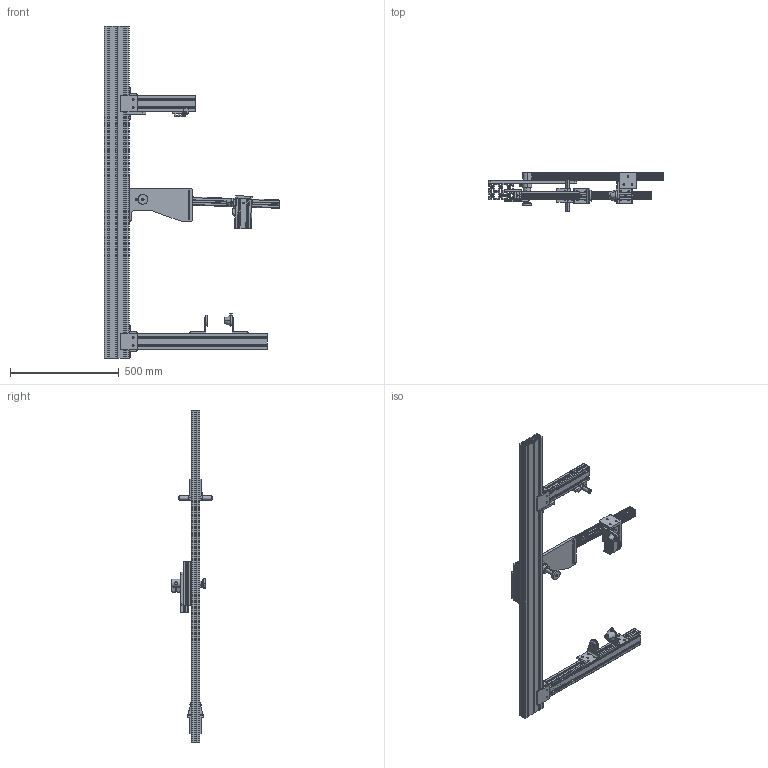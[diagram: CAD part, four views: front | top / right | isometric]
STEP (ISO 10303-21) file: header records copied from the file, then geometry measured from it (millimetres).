
FILE_DESCRIPTION (( 'STEP AP214' ), '1' );
FILE_NAME ('FRAME_JIG.STEP', '2022-06-14T12:47:03', ( '' ), ( '' ), 'SwSTEP 2.0', 'SolidWorks 2021', '' );
FILE_SCHEMA (( 'AUTOMOTIVE_DESIGN' ));
Length unit declared in the file: inch
Products named in the file (30): 1545_S_10; 1515_ULS_30_CL; 5779K108_Push-to-Connect Tube Fitting for Air_5779K108; bb_post; st_angle_plate; st_cone; FRAME_JIG; 4311; _4387_n_2; 1530_S_25_CL; 4302; dropout_pointer; bb_cap; side_guide_plate; st_laser_plate2; bb_shaft; dropout_pointer_y; axle_tab; _3127_4; 1530_S_4; ht_base; axle_block; 1530_dummy; ht_cone; 4387; _3278_6; 12x148_dummy; 1545_S_60_CL; 8mm_dowel; st_laser_plate1
Assembly tree (40 placements, depth 3):
  FRAME_JIG
    1545_S_60_CL
    1530_S_25_CL
    1545_S_10
    1515_ULS_30_CL
    4311  x2
    ht_cone
    ht_base
    st_cone
    4387
      _4387_n_2
      _3127_4
      _3278_6
    4302  x4
    bb_post
    bb_cap
    1530_S_4
    1530_dummy
    8mm_dowel  x2
    12x148_dummy
    axle_block
    axle_tab  x2
    st_laser_plate1
    st_laser_plate2
    st_angle_plate
    bb_shaft
    5779K108_Push-to-Connect Tube Fitting for Air_5779K108  x3
    side_guide_plate  x4
    dropout_pointer
    dropout_pointer_y
Bounding box: 806.73 x 183.96 x 1524 mm (x, y, z)
Volume: 6439459 mm3; surface area: 2864510.2 mm2
Topology: 39 solids, 39 shells, 1904 faces, 5282 edges, 3480 vertices
Faces by surface type: plane 879, cylinder 870, cone 130, torus 16, bspline 9
Entity records: 75055 total; most frequent: CARTESIAN_POINT 12264, DIRECTION 9550, ORIENTED_EDGE 9294, EDGE_CURVE 4647, AXIS2_PLACEMENT_3D 3317, VERTEX_POINT 3080, VECTOR 2916, LINE 2916
